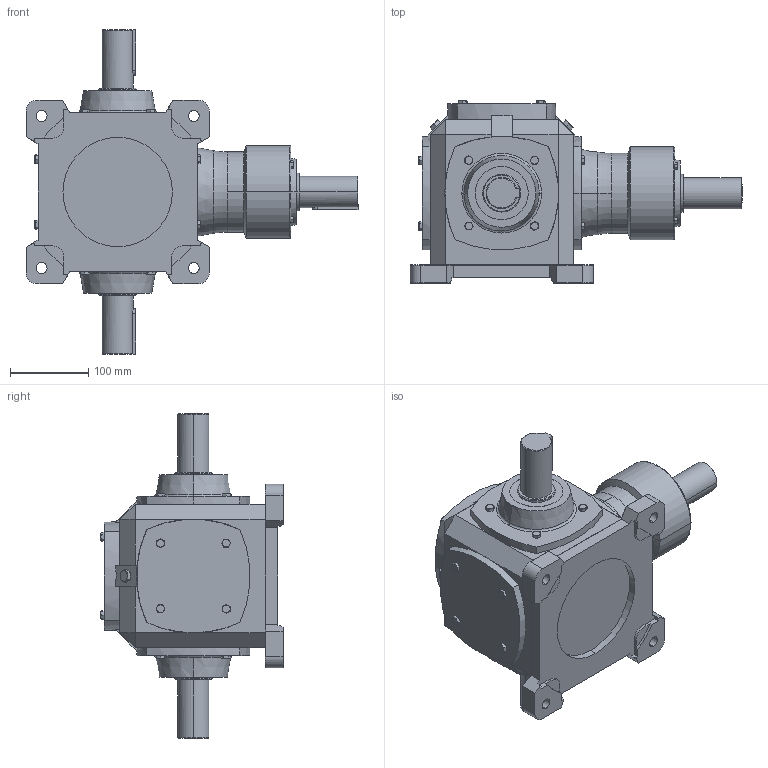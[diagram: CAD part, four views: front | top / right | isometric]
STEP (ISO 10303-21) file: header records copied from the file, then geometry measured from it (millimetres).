
FILE_DESCRIPTION (( 'STEP AP203' ), '1' );
FILE_NAME ('TC8-1-WB1-b1.step', '2018-04-08T02:12:01', ( 'IT Division' ), ( 'IT' ), 'SwSTEP 2.0', 'SolidWorks 2016', '' );
FILE_SCHEMA (( 'CONFIG_CONTROL_DESIGN' ));
Length unit declared in the file: millimetre
Products named in the file (1): TC8-1-WB1-b1
Bounding box: 425.5 x 233.47 x 416 mm (x, y, z)
Volume: 9690970.1 mm3; surface area: 431231.3 mm2
Topology: 2 solids, 2 shells, 616 faces, 1485 edges, 908 vertices
Faces by surface type: plane 312, cone 199, cylinder 93, torus 12
Entity records: 18759 total; most frequent: CARTESIAN_POINT 4789, ORIENTED_EDGE 2970, DIRECTION 2769, EDGE_CURVE 1485, AXIS2_PLACEMENT_3D 1024, VERTEX_POINT 908, VECTOR 721, LINE 721
